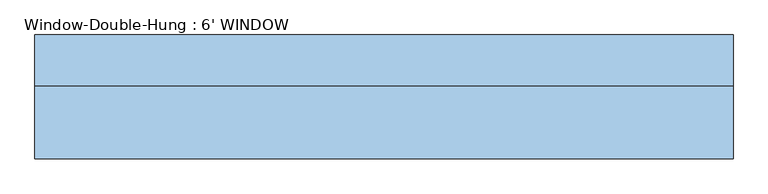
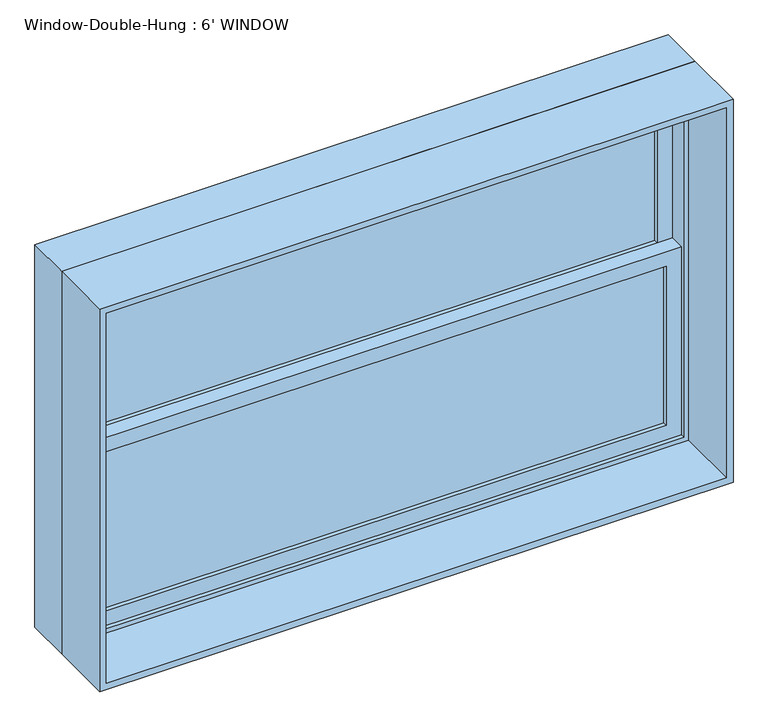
"""IFC4 building model written with IfcOpenShell, lengths in millimetres: window geometry, Window-Double-Hung : 6' WINDOW."""

import ifcopenshell
import ifcopenshell.guid

model = None  # the IFC model being written
_history = None  # IfcOwnerHistory: only IFC2X3 demands one
_inside = {}  # id of a spatial element -> (the spatial element, [elements in it])
_under = {}  # id of a project, library or spatial element -> (it, [spatial elements below it])
_declared = {}  # id of a project -> (the project, [libraries it declares])
_typed = {}  # id of a type object -> (the type object, [elements of that type])
_made_of = {}  # id of a material, layer set ... -> (it, [elements and type objects made of it])


def new_model(schema):
    """Start an empty IFC model of exactly this schema.

    Asked for "IFC4X3", IfcOpenShell would pick the latest addendum, in which some entities
    have other attributes; the version numbers below select the first issue.
    IFC2X3 requires an IfcOwnerHistory on every rooted entity: one is made here for all.
    """
    global model, _history
    if schema == "IFC4X3":
        model = ifcopenshell.file(schema_version=(4, 3, 0, 0))
    else:
        model = ifcopenshell.file(schema=schema)
    _inside.clear()
    _under.clear()
    _declared.clear()
    _typed.clear()
    _made_of.clear()
    _history = None
    if model.schema == "IFC2X3":
        org = make("IfcOrganization", Name="unknown")
        user = make(
            "IfcPersonAndOrganization",
            ThePerson=make("IfcPerson", FamilyName="unknown"),
            TheOrganization=org,
        )
        app = make(
            "IfcApplication",
            ApplicationDeveloper=org,
            Version="unknown",
            ApplicationFullName="unknown",
            ApplicationIdentifier="unknown",
        )
        _history = make(
            "IfcOwnerHistory",
            OwningUser=user,
            OwningApplication=app,
            ChangeAction="ADDED",
            CreationDate=0,
        )
    return model


def make(cls, **values):
    """One entity of the class cls with the attributes given. An attribute that is None is left unset."""
    return model.create_entity(
        cls, **{name: value for name, value in values.items() if value is not None}
    )


def rooted(cls, **values):
    """An entity with a GlobalId (a new one), such as an element, a storey or a relation."""
    return make(cls, GlobalId=ifcopenshell.guid.new(), OwnerHistory=_history, **values)


def si_unit(unit_type, name, prefix=None):
    """IfcSIUnit, for example si_unit("LENGTHUNIT", "METRE", prefix="MILLI")."""
    return make("IfcSIUnit", UnitType=unit_type, Prefix=prefix, Name=name)


def assignment(units):
    """IfcUnitAssignment: the units of a project."""
    return None if units is None else make("IfcUnitAssignment", Units=units)


def point(xyz):
    """IfcCartesianPoint."""
    return None if xyz is None else make("IfcCartesianPoint", Coordinates=xyz)


def direction(xyz):
    """IfcDirection."""
    return None if xyz is None else make("IfcDirection", DirectionRatios=xyz)


def frame(location, z_axis=None, x_axis=None):
    """IfcAxis2Placement3D, a coordinate frame: its origin and axes. An axis left out is left unset."""
    return make(
        "IfcAxis2Placement3D",
        Location=point(location),
        Axis=direction(z_axis),
        RefDirection=direction(x_axis),
    )


def origin():
    """The frame at (0, 0, 0) with its axes left unset."""
    return frame((0.0, 0.0, 0.0))


def place(relative_to, where):
    """IfcLocalPlacement: puts the frame where relative to a parent placement (None: the world)."""
    return make(
        "IfcLocalPlacement", PlacementRelTo=relative_to, RelativePlacement=where
    )


def context(
    kind, dimensions, precision=None, world=None, true_north=None, identifier=None
):
    """IfcGeometricRepresentationContext, for example the 3D "Model" context."""
    return make(
        "IfcGeometricRepresentationContext",
        ContextIdentifier=identifier,
        ContextType=kind,
        CoordinateSpaceDimension=dimensions,
        Precision=precision,
        WorldCoordinateSystem=world,
        TrueNorth=true_north,
    )


def project(units=None, contexts=None):
    """IfcProject with its units and contexts."""
    return rooted(
        "IfcProject",
        Name="project",
        RepresentationContexts=contexts,
        UnitsInContext=assignment(units),
    )


def spatial(cls, under=None, at=None, **own):
    """A site, building, storey or space (cls), placed at a placement, below another one or the project."""
    s = rooted(cls, ObjectPlacement=at, **own)
    if under is not None:
        _under.setdefault(under.id(), (under, []))[1].append(s)
    return s


def polyline(points):
    """IfcPolyline through the points."""
    return make("IfcPolyline", Points=[point(p) for p in points])


def outline(outer, holes=None, kind="AREA"):
    """IfcArbitraryClosedProfileDef: a profile drawn as a closed curve; with holes, ...WithVoids."""
    if holes is None:
        return make("IfcArbitraryClosedProfileDef", ProfileType=kind, OuterCurve=outer)
    return make(
        "IfcArbitraryProfileDefWithVoids",
        ProfileType=kind,
        OuterCurve=outer,
        InnerCurves=holes,
    )


def extrude(swept, where, along, depth):
    """IfcExtrudedAreaSolid: the profile swept, set in the frame where, extruded along a direction by depth."""
    return make(
        "IfcExtrudedAreaSolid",
        SweptArea=swept,
        Position=where,
        ExtrudedDirection=direction(along),
        Depth=depth,
    )


def shape(context_of_items, identifier, shape_type, items):
    """IfcShapeRepresentation: the items that make up one representation, for example the "Body"."""
    return make(
        "IfcShapeRepresentation",
        ContextOfItems=context_of_items,
        RepresentationIdentifier=identifier,
        RepresentationType=shape_type,
        Items=items,
    )


def source(mapping_origin, context_of_items, identifier, shape_type, items):
    """IfcRepresentationMap: a shape defined once, which mapped items show again and again."""
    return make(
        "IfcRepresentationMap",
        MappingOrigin=mapping_origin,
        MappedRepresentation=shape(context_of_items, identifier, shape_type, items),
    )


def transform(
    local_origin,
    x_axis=None,
    y_axis=None,
    z_axis=None,
    scale=None,
    scale2=None,
    scale3=None,
    uniform=True,
):
    """IfcCartesianTransformationOperator3D, or its non-uniform kind. x_axis, y_axis, z_axis: its Axis1, 2, 3."""
    if uniform:
        return make(
            "IfcCartesianTransformationOperator3D",
            Axis1=direction(x_axis),
            Axis2=direction(y_axis),
            LocalOrigin=point(local_origin),
            Scale=scale,
            Axis3=direction(z_axis),
        )
    return make(
        "IfcCartesianTransformationOperator3DnonUniform",
        Axis1=direction(x_axis),
        Axis2=direction(y_axis),
        LocalOrigin=point(local_origin),
        Scale=scale,
        Axis3=direction(z_axis),
        Scale2=scale2,
        Scale3=scale3,
    )


def mapped(mapping_source, mapping_target):
    """IfcMappedItem: shows the shape of a source again, moved by a transform."""
    return make(
        "IfcMappedItem", MappingSource=mapping_source, MappingTarget=mapping_target
    )


def made_of(thing, what):
    """Note that an element or type object is made of a material, layer set ...; save() writes the relation."""
    if what is not None:
        _made_of.setdefault(what.id(), (what, []))[1].append(thing)
    return thing


def element(
    cls,
    number,
    at=None,
    inside=None,
    cuts=None,
    type_object=None,
    material=None,
    context=None,
    identifier="Body",
    shape_type=None,
    held_by="IfcProductDefinitionShape",
    body=None,
    shapes=None,
    **own,
):
    """One element of the class cls, such as IfcWall. Its Tag is "e" and its number.

    at: its placement. inside: the storey or other place that contains it. cuts: it is an
    opening in that element (IfcRelVoidsElement). A single representation is given by context,
    identifier, shape_type and body (its items); several are given by shapes. held_by: the class
    of the entity that holds the representations. save() writes the other relations.
    """
    e = rooted(cls, Tag="e%d" % number, ObjectPlacement=at, **own)
    if body is not None:
        shapes = [shape(context, identifier, shape_type, body)]
    if shapes is not None:
        e.Representation = make(held_by, Representations=shapes)
    if inside is not None:
        _inside.setdefault(inside.id(), (inside, []))[1].append(e)
    if cuts is not None:
        rooted(
            "IfcRelVoidsElement", RelatingBuildingElement=cuts, RelatedOpeningElement=e
        )
    if type_object is not None:
        _typed.setdefault(type_object.id(), (type_object, []))[1].append(e)
    return made_of(e, material)


def aggregate(whole, parts):
    """IfcRelAggregates: a whole, such as a stair, and the parts it consists of."""
    return rooted("IfcRelAggregates", RelatingObject=whole, RelatedObjects=parts)


def save(model, path):
    """Write the relations noted so far, then the file.

    IfcRelAggregates (storeys below a building ...), IfcRelContainedInSpatialStructure (elements
    in a storey), IfcRelDefinesByType, IfcRelAssociatesMaterial and IfcRelDeclares: one each for
    every whole, place, type object, material and project.
    """
    for whole, parts in _under.values():
        aggregate(whole, parts)
    for where, things in _inside.values():
        rooted(
            "IfcRelContainedInSpatialStructure",
            RelatedElements=things,
            RelatingStructure=where,
        )
    for kind, things in _typed.values():
        rooted("IfcRelDefinesByType", RelatedObjects=things, RelatingType=kind)
    for what, things in _made_of.values():
        rooted("IfcRelAssociatesMaterial", RelatedObjects=things, RelatingMaterial=what)
    for by, libraries in _declared.values():
        rooted("IfcRelDeclares", RelatingContext=by, RelatedDefinitions=libraries)
    model.write(path)


def window_double_hung_6_window_37ab507d(model_context):
    return source(origin(), model_context, "Body", "SweptSolid", [
        extrude(outline(polyline([(838.2, 82.55), (838.2, 76.2), (-838.2, 76.2), (-838.2, 82.55), (838.2, 82.55)])), frame((0.0, 0.0, 990.6), z_axis=(0.0, 0.0, 1.0), x_axis=(1.0, 0.0, 0.0)), (0.0, 0.0, 1.0), 485.775),
        extrude(outline(polyline([(-838.2, 69.85), (838.2, 69.85), (838.2, 63.5), (-838.2, 63.5), (-838.2, 69.85)])), frame((0.0, 0.0, 990.6), z_axis=(0.0, 0.0, 1.0), x_axis=(1.0, 0.0, 0.0)), (0.0, 0.0, 1.0), 485.775),
        extrude(outline(polyline([(838.2, 127.0), (838.2, 120.65), (-838.2, 120.65), (-838.2, 127.0), (838.2, 127.0)])), frame((0.0, 0.0, 1520.825), z_axis=(0.0, 0.0, 1.0), x_axis=(1.0, 0.0, 0.0)), (0.0, 0.0, 1.0), 485.775),
        extrude(outline(polyline([(-838.2, 114.3), (838.2, 114.3), (838.2, 107.95), (-838.2, 107.95), (-838.2, 114.3)])), frame((0.0, 0.0, 1520.825), z_axis=(0.0, 0.0, 1.0), x_axis=(1.0, 0.0, 0.0)), (0.0, 0.0, 1.0), 485.775),
        extrude(outline(polyline([(1520.825, -882.65), (946.15, -882.65), (946.15, 882.65), (1520.825, 882.65), (1520.825, -882.65)]), holes=[polyline([(1476.375, 838.2), (990.6, 838.2), (990.6, -838.2), (1476.375, -838.2), (1476.375, 838.2)])]), frame((0.0, 50.8, 0.0), z_axis=(0.0, 1.0, 0.0), x_axis=(0.0, 0.0, 1.0)), (0.0, 0.0, 1.0), 44.45),
        extrude(outline(polyline([(2051.05, -882.65), (1476.375, -882.65), (1476.375, 882.65), (2051.05, 882.65), (2051.05, -882.65)]), holes=[polyline([(2006.6, 838.2), (1520.825, 838.2), (1520.825, -838.2), (2006.6, -838.2), (2006.6, 838.2)])]), frame((0.0, 95.25, 0.0), z_axis=(0.0, 1.0, 0.0), x_axis=(0.0, 0.0, 1.0)), (0.0, 0.0, 1.0), 44.45),
        extrude(outline(polyline([(2082.8, -914.4), (914.4, -914.4), (914.4, 914.4), (2082.8, 914.4), (2082.8, -914.4)]), holes=[polyline([(2051.05, 882.65), (946.15, 882.65), (946.15, -882.65), (2051.05, -882.65), (2051.05, 882.65)])]), frame((0.0, 38.1, 0.0), z_axis=(0.0, 1.0, 0.0), x_axis=(0.0, 0.0, 1.0)), (0.0, 0.0, 1.0), 133.35),
        extrude(outline(polyline([(2082.8, 914.4), (2082.8, -914.4), (914.4, -914.4), (914.4, 914.4), (2082.8, 914.4)]), holes=[polyline([(2063.75, 895.35), (933.45, 895.35), (933.45, -895.35), (2063.75, -895.35), (2063.75, 895.35)])]), frame((0.0, -152.4, 0.0), z_axis=(0.0, 1.0, 0.0), x_axis=(0.0, 0.0, 1.0)), (0.0, 0.0, 1.0), 190.5),
    ])


if __name__ == "__main__":
    model = new_model("IFC4")
    model_context = context("Model", 3, world=origin())
    ifc_project = project(units=[si_unit("LENGTHUNIT", "METRE", prefix="MILLI")], contexts=[model_context])
    site = spatial("IfcSite", under=ifc_project)
    building = spatial("IfcBuilding", under=site)
    placement = place(None, origin())
    window_double_hung_6_window_shape = window_double_hung_6_window_37ab507d(model_context)
    element("IfcWindow", 1, ObjectType="Window-Double-Hung : 6' WINDOW", at=placement, inside=building, context=model_context, shape_type="MappedRepresentation", body=[
        mapped(window_double_hung_6_window_shape, transform((0.0, 0.0, 0.0), x_axis=(1.0, 0.0, 0.0), y_axis=(0.0, 1.0, 0.0), z_axis=(0.0, 0.0, 1.0))),
    ])
    save(model, "model.ifc")
